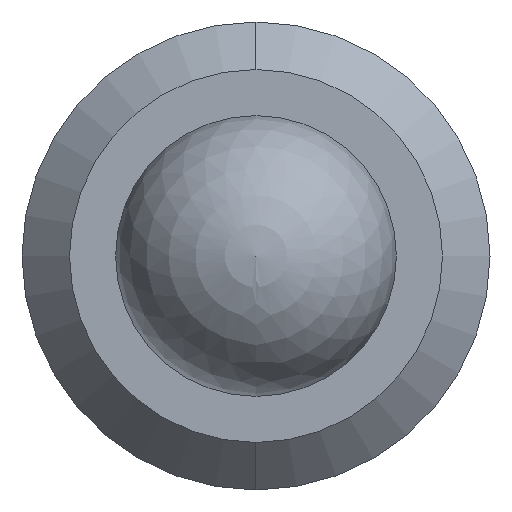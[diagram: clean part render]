
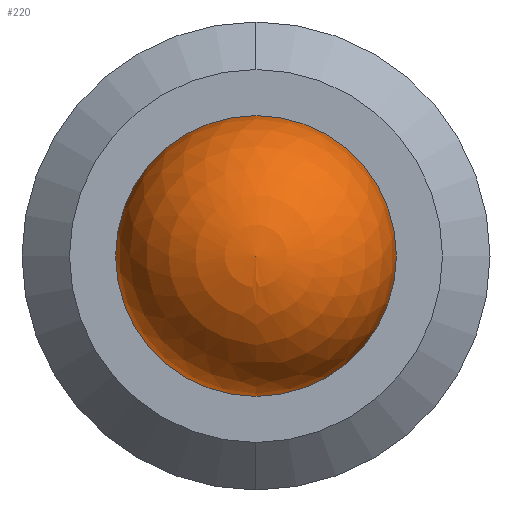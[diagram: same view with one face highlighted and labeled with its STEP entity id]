
A CAD part, left-side view. The second image highlights one B-rep face of the part: STEP entity #220.
In plain terms, the highlighted spherical face has radius 0.75 mm.
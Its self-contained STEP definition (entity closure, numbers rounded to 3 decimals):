
#47 = DIRECTION ( 'NONE',  ( 0., 0., 1. ) ) ;
#66 = AXIS2_PLACEMENT_3D ( 'NONE', #371, #417, #168 ) ;
#91 = EDGE_LOOP ( 'NONE', ( #445, #174 ) ) ;
#98 = AXIS2_PLACEMENT_3D ( 'NONE', #579, #102, #47 ) ;
#102 = DIRECTION ( 'NONE',  ( -1., 0., 0. ) ) ;
#124 = AXIS2_PLACEMENT_3D ( 'NONE', #188, #198, #202 ) ;
#168 = DIRECTION ( 'NONE',  ( 0., 0., -1. ) ) ;
#174 = ORIENTED_EDGE ( 'NONE', *, *, #610, .T. ) ;
#188 = CARTESIAN_POINT ( 'NONE',  ( 0., 0., 0. ) ) ;
#198 = DIRECTION ( 'NONE',  ( 1., 0., 0. ) ) ;
#202 = DIRECTION ( 'NONE',  ( 0., 0., -1. ) ) ;
#220 = ADVANCED_FACE ( 'NONE', ( #419 ), #399, .T. ) ;
#229 = CARTESIAN_POINT ( 'NONE',  ( 0., -0.75, 0. ) ) ;
#371 = CARTESIAN_POINT ( 'NONE',  ( 0., 0., 0. ) ) ;
#399 = SPHERICAL_SURFACE ( 'NONE', #124, 0.75 ) ;
#417 = DIRECTION ( 'NONE',  ( 1., 0., 0. ) ) ;
#419 = FACE_OUTER_BOUND ( 'NONE', #91, .T. ) ;
#429 = VERTEX_POINT ( 'NONE', #229 ) ;
#445 = ORIENTED_EDGE ( 'NONE', *, *, #606, .F. ) ;
#454 = CARTESIAN_POINT ( 'NONE',  ( 0., 0.75, 0. ) ) ;
#482 = CIRCLE ( 'NONE', #66, 0.75 ) ;
#562 = VERTEX_POINT ( 'NONE', #454 ) ;
#579 = CARTESIAN_POINT ( 'NONE',  ( 0., 0., 0. ) ) ;
#596 = CIRCLE ( 'NONE', #98, 0.75 ) ;
#606 = EDGE_CURVE ( 'NONE', #562, #429, #482, .T. ) ;
#610 = EDGE_CURVE ( 'NONE', #562, #429, #596, .T. ) ;
